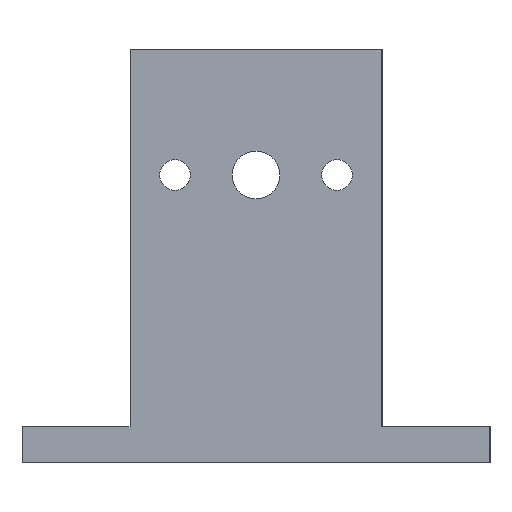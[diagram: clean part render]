
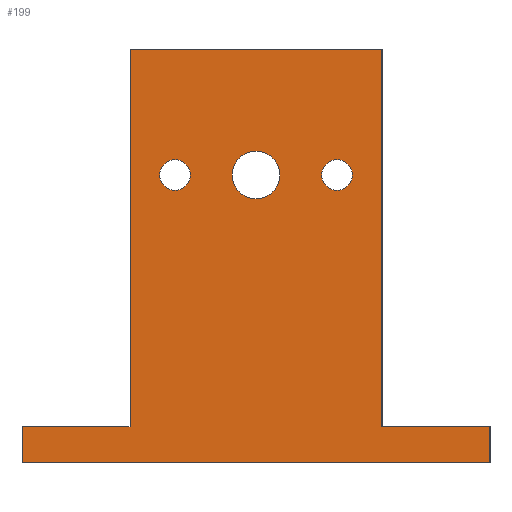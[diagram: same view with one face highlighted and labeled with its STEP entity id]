
A CAD part, left-side view. The second image highlights one B-rep face of the part: STEP entity #199.
In plain terms, the highlighted planar face has unit normal (-1, 0, 0).
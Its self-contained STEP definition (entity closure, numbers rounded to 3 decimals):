
#21 = EDGE_CURVE('',#22,#24,#26,.T.);
#22 = VERTEX_POINT('',#23);
#23 = CARTESIAN_POINT('',(0.,0.,4.));
#24 = VERTEX_POINT('',#25);
#25 = CARTESIAN_POINT('',(0.,12.,4.));
#26 = LINE('',#27,#28);
#27 = CARTESIAN_POINT('',(0.,0.,4.));
#28 = VECTOR('',#29,1.);
#29 = DIRECTION('',(-0.,1.,0.));
#80 = VERTEX_POINT('',#81);
#81 = CARTESIAN_POINT('',(0.,52.,4.));
#87 = EDGE_CURVE('',#88,#80,#90,.T.);
#88 = VERTEX_POINT('',#89);
#89 = CARTESIAN_POINT('',(0.,40.,4.));
#90 = LINE('',#91,#92);
#91 = CARTESIAN_POINT('',(0.,0.,4.));
#92 = VECTOR('',#93,1.);
#93 = DIRECTION('',(-0.,1.,0.));
#199 = ADVANCED_FACE('',(#200,#248,#259,#270),#281,.T.);
#200 = FACE_BOUND('',#201,.T.);
#201 = EDGE_LOOP('',(#202,#203,#211,#219,#225,#226,#234,#242));
#202 = ORIENTED_EDGE('',*,*,#21,.T.);
#203 = ORIENTED_EDGE('',*,*,#204,.T.);
#204 = EDGE_CURVE('',#24,#205,#207,.T.);
#205 = VERTEX_POINT('',#206);
#206 = CARTESIAN_POINT('',(0.,12.,46.));
#207 = LINE('',#208,#209);
#208 = CARTESIAN_POINT('',(0.,12.,0.));
#209 = VECTOR('',#210,1.);
#210 = DIRECTION('',(0.,0.,1.));
#211 = ORIENTED_EDGE('',*,*,#212,.T.);
#212 = EDGE_CURVE('',#205,#213,#215,.T.);
#213 = VERTEX_POINT('',#214);
#214 = CARTESIAN_POINT('',(0.,40.,46.));
#215 = LINE('',#216,#217);
#216 = CARTESIAN_POINT('',(0.,12.,46.));
#217 = VECTOR('',#218,1.);
#218 = DIRECTION('',(-0.,1.,0.));
#219 = ORIENTED_EDGE('',*,*,#220,.F.);
#220 = EDGE_CURVE('',#88,#213,#221,.T.);
#221 = LINE('',#222,#223);
#222 = CARTESIAN_POINT('',(0.,40.,0.));
#223 = VECTOR('',#224,1.);
#224 = DIRECTION('',(0.,0.,1.));
#225 = ORIENTED_EDGE('',*,*,#87,.T.);
#226 = ORIENTED_EDGE('',*,*,#227,.F.);
#227 = EDGE_CURVE('',#228,#80,#230,.T.);
#228 = VERTEX_POINT('',#229);
#229 = CARTESIAN_POINT('',(0.,52.,0.));
#230 = LINE('',#231,#232);
#231 = CARTESIAN_POINT('',(0.,52.,0.));
#232 = VECTOR('',#233,1.);
#233 = DIRECTION('',(0.,0.,1.));
#234 = ORIENTED_EDGE('',*,*,#235,.F.);
#235 = EDGE_CURVE('',#236,#228,#238,.T.);
#236 = VERTEX_POINT('',#237);
#237 = CARTESIAN_POINT('',(0.,0.,0.));
#238 = LINE('',#239,#240);
#239 = CARTESIAN_POINT('',(0.,0.,0.));
#240 = VECTOR('',#241,1.);
#241 = DIRECTION('',(-0.,1.,0.));
#242 = ORIENTED_EDGE('',*,*,#243,.T.);
#243 = EDGE_CURVE('',#236,#22,#244,.T.);
#244 = LINE('',#245,#246);
#245 = CARTESIAN_POINT('',(0.,0.,0.));
#246 = VECTOR('',#247,1.);
#247 = DIRECTION('',(0.,0.,1.));
#248 = FACE_BOUND('',#249,.T.);
#249 = EDGE_LOOP('',(#250));
#250 = ORIENTED_EDGE('',*,*,#251,.T.);
#251 = EDGE_CURVE('',#252,#252,#254,.T.);
#252 = VERTEX_POINT('',#253);
#253 = CARTESIAN_POINT('',(0.,35.,33.7));
#254 = CIRCLE('',#255,1.7);
#255 = AXIS2_PLACEMENT_3D('',#256,#257,#258);
#256 = CARTESIAN_POINT('',(0.,35.,32.));
#257 = DIRECTION('',(1.,0.,0.));
#258 = DIRECTION('',(-0.,0.,1.));
#259 = FACE_BOUND('',#260,.T.);
#260 = EDGE_LOOP('',(#261));
#261 = ORIENTED_EDGE('',*,*,#262,.T.);
#262 = EDGE_CURVE('',#263,#263,#265,.T.);
#263 = VERTEX_POINT('',#264);
#264 = CARTESIAN_POINT('',(0.,26.,34.65));
#265 = CIRCLE('',#266,2.65);
#266 = AXIS2_PLACEMENT_3D('',#267,#268,#269);
#267 = CARTESIAN_POINT('',(0.,26.,32.));
#268 = DIRECTION('',(1.,0.,0.));
#269 = DIRECTION('',(-0.,0.,1.));
#270 = FACE_BOUND('',#271,.T.);
#271 = EDGE_LOOP('',(#272));
#272 = ORIENTED_EDGE('',*,*,#273,.T.);
#273 = EDGE_CURVE('',#274,#274,#276,.T.);
#274 = VERTEX_POINT('',#275);
#275 = CARTESIAN_POINT('',(0.,17.,33.7));
#276 = CIRCLE('',#277,1.7);
#277 = AXIS2_PLACEMENT_3D('',#278,#279,#280);
#278 = CARTESIAN_POINT('',(0.,17.,32.));
#279 = DIRECTION('',(1.,0.,0.));
#280 = DIRECTION('',(-0.,0.,1.));
#281 = PLANE('',#282);
#282 = AXIS2_PLACEMENT_3D('',#283,#284,#285);
#283 = CARTESIAN_POINT('',(0.,26.,17.857));
#284 = DIRECTION('',(-1.,-0.,-0.));
#285 = DIRECTION('',(0.,0.,-1.));
